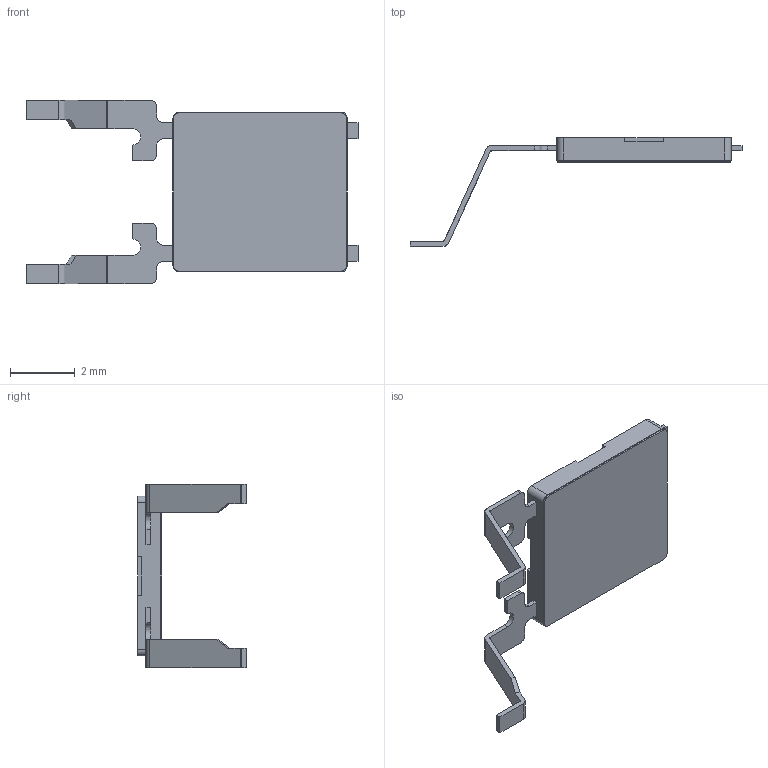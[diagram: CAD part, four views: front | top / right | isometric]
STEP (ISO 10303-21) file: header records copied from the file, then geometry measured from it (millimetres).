
FILE_DESCRIPTION((''),'2;1');
FILE_NAME('JQL5054C-A0070-05EG-1-105_ASM','2026-07-03T17:03:17',('Admin'),(''),'CREO PARAMETRIC BY PTC INC, 2019224','CREO PARAMETRIC BY PTC INC, 2019224','');
FILE_SCHEMA(('AUTOMOTIVE_DESIGN { 1 0 10303 214 1 1 1 1 }'));
Length unit declared in the file: millimetre
Products named in the file (3): JQL5054C-A0070-05EG-1-105_02; JQL5054C-A0070-05EG-1-105_08; JQL5054C-A0070-05EG-1-105_ASM
Assembly tree (2 placements, depth 2):
  JQL5054C-A0070-05EG-1-105_ASM
    JQL5054C-A0070-05EG-1-105_02
    JQL5054C-A0070-05EG-1-105_08
Bounding box: 10.28 x 3.36 x 5.68 mm (x, y, z)
Volume: 17.9 mm3; surface area: 159.6 mm2
Topology: 2 solids, 2 shells, 136 faces, 374 edges, 253 vertices
Faces by surface type: plane 98, cylinder 36, sphere 2
Entity records: 6459 total; most frequent: CARTESIAN_POINT 769, DIRECTION 744, ORIENTED_EDGE 736, PRESENTATION_STYLE_ASSIGNMENT 447, STYLED_ITEM 377, CURVE_STYLE 375, EDGE_CURVE 368, VECTOR 290
